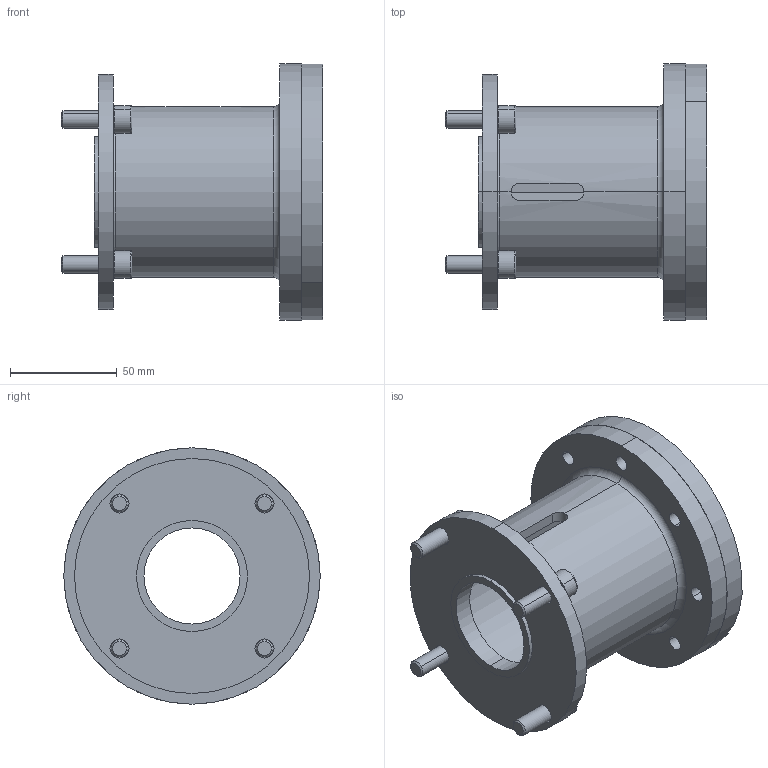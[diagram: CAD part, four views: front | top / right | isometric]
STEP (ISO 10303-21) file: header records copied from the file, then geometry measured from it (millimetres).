
FILE_DESCRIPTION (( 'STEP AP203' ), '1' );
FILE_NAME ('MG120.STEP', '2024-01-16T07:52:56', ( '' ), ( '' ), 'SwSTEP 2.0', 'SolidWorks 2022', '' );
FILE_SCHEMA (( 'CONFIG_CONTROL_DESIGN' ));
Length unit declared in the file: millimetre
Products named in the file (1): MG120
Bounding box: 122.3 x 120 x 120 mm (x, y, z)
Volume: 289699.2 mm3; surface area: 103828.5 mm2
Topology: 10 solids, 10 shells, 183 faces, 448 edges, 290 vertices
Faces by surface type: cylinder 88, plane 57, torus 22, cone 16
Entity records: 5609 total; most frequent: CARTESIAN_POINT 1050, DIRECTION 1008, ORIENTED_EDGE 880, EDGE_CURVE 440, AXIS2_PLACEMENT_3D 424, VERTEX_POINT 290, EDGE_LOOP 242, CIRCLE 240
